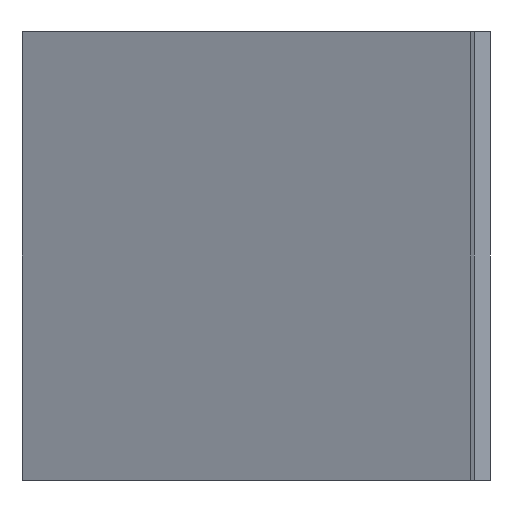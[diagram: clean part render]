
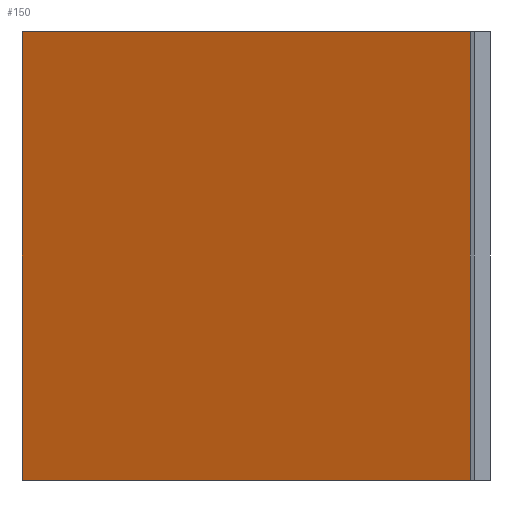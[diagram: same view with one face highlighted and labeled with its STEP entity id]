
A CAD part, left-side view. The second image highlights one B-rep face of the part: STEP entity #150.
In plain terms, the highlighted planar face has unit normal (0.927, -0.374, 0).
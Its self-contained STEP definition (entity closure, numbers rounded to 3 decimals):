
#98=CARTESIAN_POINT('Vertex',(20.,0.,0.)) ;
#101=CARTESIAN_POINT('Line Origine',(20.,0.,57.)) ;
#105=CARTESIAN_POINT('Vertex',(20.,0.,114.)) ;
#120=CARTESIAN_POINT('Axis2P3D Location',(20.,0.,0.)) ;
#125=CARTESIAN_POINT('Line Origine',(43.,57.,0.)) ;
#129=CARTESIAN_POINT('Vertex',(66.,114.,0.)) ;
#132=CARTESIAN_POINT('Line Origine',(66.,114.,57.)) ;
#136=CARTESIAN_POINT('Vertex',(66.,114.,114.)) ;
#139=CARTESIAN_POINT('Line Origine',(43.,57.,114.)) ;
#102=DIRECTION('Vector Direction',(0.,0.,1.)) ;
#121=DIRECTION('Axis2P3D Direction',(0.927,-0.374,0.)) ;
#122=DIRECTION('Axis2P3D XDirection',(0.374,0.927,0.)) ;
#126=DIRECTION('Vector Direction',(0.374,0.927,0.)) ;
#133=DIRECTION('Vector Direction',(0.,0.,1.)) ;
#140=DIRECTION('Vector Direction',(0.374,0.927,0.)) ;
#123=AXIS2_PLACEMENT_3D('Plane Axis2P3D',#120,#121,#122) ;
#145=ORIENTED_EDGE('',*,*,#107,.F.) ;
#146=ORIENTED_EDGE('',*,*,#131,.T.) ;
#147=ORIENTED_EDGE('',*,*,#138,.T.) ;
#148=ORIENTED_EDGE('',*,*,#143,.F.) ;
#103=VECTOR('Line Direction',#102,1.) ;
#127=VECTOR('Line Direction',#126,1.) ;
#134=VECTOR('Line Direction',#133,1.) ;
#141=VECTOR('Line Direction',#140,1.) ;
#150=ADVANCED_FACE('Extrude.1',(#149),#124,.T.) ;
#107=EDGE_CURVE('',#99,#106,#104,.T.) ;
#131=EDGE_CURVE('',#99,#130,#128,.T.) ;
#138=EDGE_CURVE('',#130,#137,#135,.T.) ;
#143=EDGE_CURVE('',#106,#137,#142,.T.) ;
#144=EDGE_LOOP('',(#145,#146,#147,#148)) ;
#149=FACE_OUTER_BOUND('',#144,.T.) ;
#104=LINE('Line',#101,#103) ;
#128=LINE('Line',#125,#127) ;
#135=LINE('Line',#132,#134) ;
#142=LINE('Line',#139,#141) ;
#124=PLANE('',#123) ;
#99=VERTEX_POINT('',#98) ;
#106=VERTEX_POINT('',#105) ;
#130=VERTEX_POINT('',#129) ;
#137=VERTEX_POINT('',#136) ;
